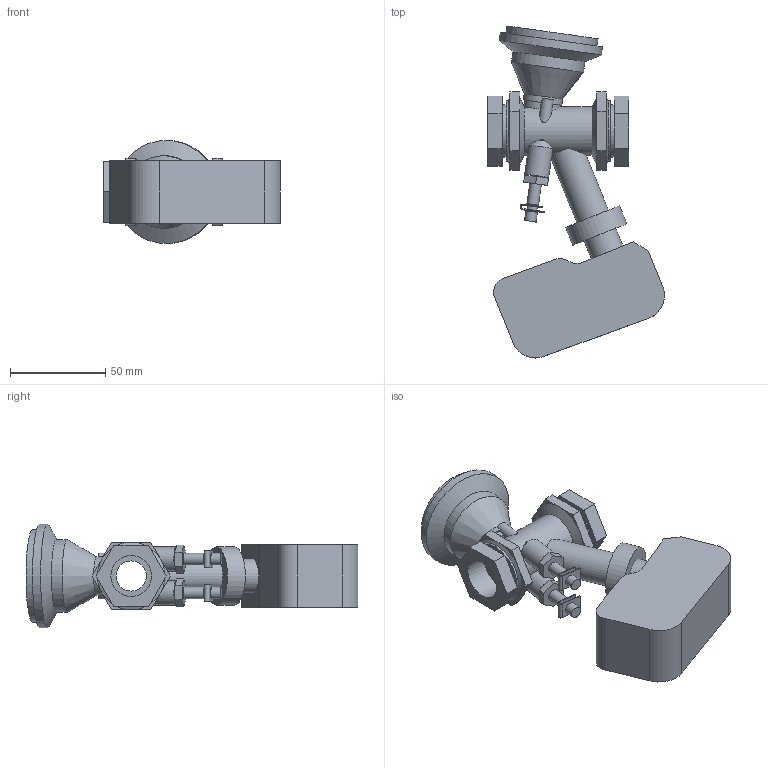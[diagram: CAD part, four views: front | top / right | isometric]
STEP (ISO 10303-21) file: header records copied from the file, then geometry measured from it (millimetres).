
FILE_DESCRIPTION(/* description */ ('VIC BALANCING AND CONTROL VALVE SERIES 7CP (FPT)-TA SLIDER 160','CAx-IF Rec.Pracs.---Representation and Presentation of Product Manufacturing Information (PMI)---4.0---2014-10-13'),/* implementation_level */ '2;1');
FILE_NAME(/* name */ 'C:\Users\Vjadhav\AppData\Roaming\Autodesk\ApplicationPlugins\Victaulic.Temp\A633\Victaulic_IPS_Valve Balancing Pressure Independent_TA Series 7CP (FPT)_Slider 160_LF_0.5 (15).stp',/* time_stamp */ '2021-09-14T20:02:38+06:00',/* author */ ('Vjadhav'),/* organization */ ('Victaulic'),/* preprocessor_version */ 'ST-DEVELOPER v17.2',/* originating_system */ 'Autodesk Inventor 2019',/* authorisation */ '');
FILE_SCHEMA (('AP242_MANAGED_MODEL_BASED_3D_ENGINEERING_MIM_LF { 1 0 10303 442 1 1 4 }'));
Length unit declared in the file: inch
Products named in the file (2): 7CP_Slider 160_LF-0.5; 7CP_LF-0.5
Assembly tree (1 placements, depth 2):
  7CP_Slider 160_LF-0.5
    7CP_LF-0.5
Bounding box: 92.67 x 173.99 x 54.1 mm (x, y, z)
Volume: 209473.3 mm3; surface area: 45944.9 mm2
Topology: 1 solids, 1 shells, 174 faces, 432 edges, 288 vertices
Faces by surface type: plane 120, cylinder 46, cone 8
Full cylindrical faces by diameter (mm): 5.08 x6, 6.096 x6, 12.7 x2, 15.799 x2, 17.78 x2, 20.32 x1, 21.336 x3, 25.4 x1, 27.432 x2, 30.471 x1, 31.75 x2, 38.1 x1, 48.26 x1, 54.102 x1
Entity records: 5722 total; most frequent: CARTESIAN_POINT 1120, DIRECTION 944, ORIENTED_EDGE 864, EDGE_CURVE 432, AXIS2_PLACEMENT_3D 350, VERTEX_POINT 288, LINE 244, VECTOR 244
